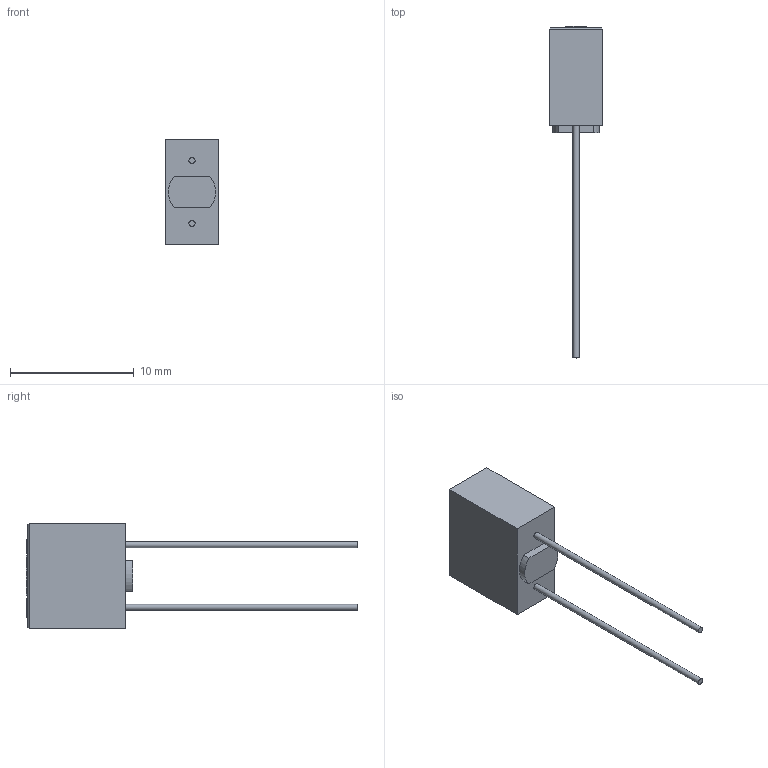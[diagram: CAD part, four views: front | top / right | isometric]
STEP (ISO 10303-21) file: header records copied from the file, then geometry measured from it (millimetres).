
FILE_DESCRIPTION(/* description */ (''),/* implementation_level */ '2;1');
FILE_NAME(/* name */ 'C:\Users\Hani\Desktop\work\TMR-R\TMR-R.stp',/* time_stamp */ '2022-01-30T11:15:47-08:00',/* author */ ('Hani'),/* organization */ (''),/* preprocessor_version */ 'ST-DEVELOPER v17',/* originating_system */ 'Autodesk Inventor 2019',/* authorisation */ '');
FILE_SCHEMA (('AUTOMOTIVE_DESIGN { 1 0 10303 214 3 1 1 }'));
Length unit declared in the file: inch
Products named in the file (1): TMR-R
Bounding box: 4.3 x 26.83 x 8.5 mm (x, y, z)
Volume: 301.6 mm3; surface area: 344.2 mm2
Topology: 1 solids, 1 shells, 155 faces, 410 edges, 272 vertices
Faces by surface type: plane 84, bspline 67, cylinder 4
Full cylindrical faces by diameter (mm): 0.5 x2
Entity records: 5392 total; most frequent: CARTESIAN_POINT 1917, ORIENTED_EDGE 820, DIRECTION 462, EDGE_CURVE 410, VERTEX_POINT 272, LINE 268, VECTOR 268, EDGE_LOOP 170
